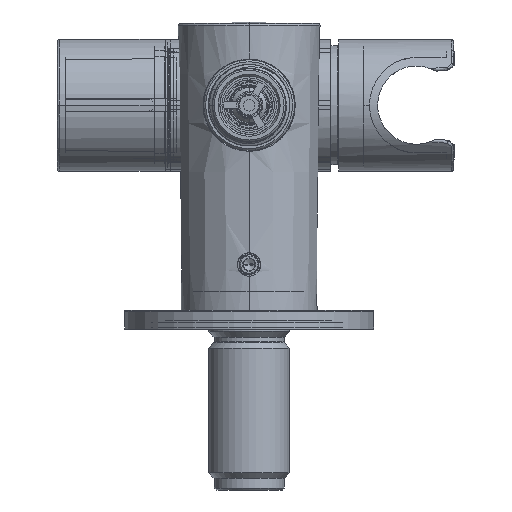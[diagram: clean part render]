
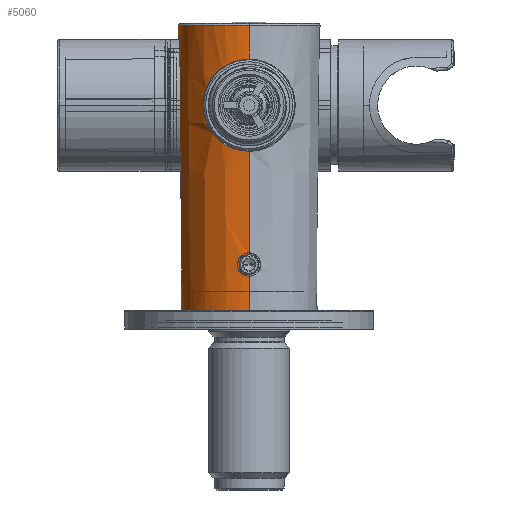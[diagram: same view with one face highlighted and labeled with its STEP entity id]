
A CAD part, front view. The second image highlights one B-rep face of the part: STEP entity #5060.
In plain terms, the highlighted conical face has half-angle 0.569 degrees and reference radius 17.875 mm.
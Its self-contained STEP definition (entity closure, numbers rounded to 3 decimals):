
#3952=DIRECTION('',(0.,1.,-0.01));
#3953=VECTOR('',#3952,26.651);
#3954=CARTESIAN_POINT('',(0.,16.5,-17.664));
#3955=LINE('',#3954,#3953);
#3980=DIRECTION('',(0.,1.,-0.01));
#3981=VECTOR('',#3980,8.651);
#3982=CARTESIAN_POINT('',(0.,66.85,-18.164));
#3983=LINE('',#3982,#3981);
#3984=DIRECTION('',(0.,1.,0.01));
#3985=VECTOR('',#3984,10.001);
#3986=CARTESIAN_POINT('',(0.,65.5,18.151));
#3987=LINE('',#3986,#3985);
#4014=DIRECTION('',(0.,1.,0.01));
#4015=VECTOR('',#4014,44.502);
#4016=CARTESIAN_POINT('',(0.,0.,17.5));
#4017=LINE('',#4016,#4015);
#4023=DIRECTION('',(0.,1.,-0.01));
#4024=VECTOR('',#4023,11.501);
#4025=CARTESIAN_POINT('',(0.,0.,-17.5));
#4026=LINE('',#4025,#4024);
#4035=CARTESIAN_POINT('',(0.,11.5,-17.614));
#4036=CARTESIAN_POINT('',(0.171,11.5,-17.614));
#4037=CARTESIAN_POINT('',(0.514,11.535,
-17.61));
#4038=CARTESIAN_POINT('',(1.005,11.692,-17.59));
#4039=CARTESIAN_POINT('',(1.456,11.946,-17.56));
#4040=CARTESIAN_POINT('',(1.842,12.284,-17.527));
#4041=CARTESIAN_POINT('',(2.155,12.698,-17.495));
#4042=CARTESIAN_POINT('',(2.376,13.167,-17.47));
#4043=CARTESIAN_POINT('',(2.499,13.684,-17.458));
#4044=CARTESIAN_POINT('',(2.51,14.213,-17.462));
#4045=CARTESIAN_POINT('',(2.407,14.742,-17.482));
#4046=CARTESIAN_POINT('',(2.198,15.229,-17.514));
#4047=CARTESIAN_POINT('',(1.889,15.666,-17.555));
#4048=CARTESIAN_POINT('',(1.498,16.024,-17.597));
#4049=CARTESIAN_POINT('',(1.037,16.295,-17.634));
#4050=CARTESIAN_POINT('',(0.531,16.462,
-17.658));
#4051=CARTESIAN_POINT('',(0.177,16.5,-17.664));
#4052=CARTESIAN_POINT('',(0.,16.5,-17.664));
#4054=CARTESIAN_POINT('',(0.,0.,0.));
#4055=DIRECTION('',(0.,1.,0.));
#4056=DIRECTION('',(0.,0.,1.));
#4057=AXIS2_PLACEMENT_3D('',#4054,#4055,#4056);
#4059=CARTESIAN_POINT('',(0.,65.5,18.151));
#4060=CARTESIAN_POINT('',(0.54,65.5,18.151));
#4061=CARTESIAN_POINT('',(1.622,65.417,18.102));
#4062=CARTESIAN_POINT('',(3.23,65.036,17.88));
#4063=CARTESIAN_POINT('',(4.728,64.421,17.534));
#4064=CARTESIAN_POINT('',(6.079,63.608,17.1));
#4065=CARTESIAN_POINT('',(7.249,62.646,16.624));
#4066=CARTESIAN_POINT('',(8.253,61.546,16.132));
#4067=CARTESIAN_POINT('',(9.07,60.354,15.671));
#4068=CARTESIAN_POINT('',(9.7,59.097,15.271));
#4069=CARTESIAN_POINT('',(10.141,57.833,14.964));
#4070=CARTESIAN_POINT('',(10.43,56.466,14.745));
#4071=CARTESIAN_POINT('',(10.535,54.996,14.652));
#4072=CARTESIAN_POINT('',(10.429,53.511,14.711));
#4073=CARTESIAN_POINT('',(10.126,52.116,14.905));
#4074=CARTESIAN_POINT('',(9.69,50.883,15.18));
#4075=CARTESIAN_POINT('',(9.069,49.645,15.548));
#4076=CARTESIAN_POINT('',(8.267,48.472,15.979));
#4077=CARTESIAN_POINT('',(7.276,47.382,16.445));
#4078=CARTESIAN_POINT('',(6.116,46.419,16.905));
#4079=CARTESIAN_POINT('',(4.761,45.595,17.332));
#4080=CARTESIAN_POINT('',(3.249,44.969,17.675));
#4081=CARTESIAN_POINT('',(1.625,44.583,17.894));
#4082=CARTESIAN_POINT('',(0.54,44.5,17.942));
#4083=CARTESIAN_POINT('',(0.,44.5,17.942));
#4085=CARTESIAN_POINT('',(0.,43.15,-17.929));
#4086=CARTESIAN_POINT('',(0.638,43.15,-17.929));
#4087=CARTESIAN_POINT('',(1.9,43.253,-17.861));
#4088=CARTESIAN_POINT('',(3.701,43.693,-17.578));
#4089=CARTESIAN_POINT('',(5.385,44.392,-17.142));
#4090=CARTESIAN_POINT('',(6.948,45.343,-16.577));
#4091=CARTESIAN_POINT('',(8.363,46.531,-15.922));
#4092=CARTESIAN_POINT('',(9.69,48.073,-15.165));
#4093=CARTESIAN_POINT('',(10.73,49.848,-14.458));
#4094=CARTESIAN_POINT('',(11.384,51.555,-13.963));
#4095=CARTESIAN_POINT('',(11.767,53.28,-13.661));
#4096=CARTESIAN_POINT('',(11.89,54.986,-13.575));
#4097=CARTESIAN_POINT('',(11.772,56.693,-13.702));
#4098=CARTESIAN_POINT('',(11.392,58.415,-14.044));
#4099=CARTESIAN_POINT('',(10.754,60.104,-14.568));
#4100=CARTESIAN_POINT('',(9.703,61.911,-15.32));
#4101=CARTESIAN_POINT('',(8.377,63.456,-16.105));
#4102=CARTESIAN_POINT('',(6.944,64.661,-16.787));
#4103=CARTESIAN_POINT('',(5.372,65.615,-17.367));
#4104=CARTESIAN_POINT('',(3.691,66.31,-17.809));
#4105=CARTESIAN_POINT('',(1.896,66.747,-18.096));
#4106=CARTESIAN_POINT('',(0.637,66.85,-18.164));
#4107=CARTESIAN_POINT('',(0.,66.85,-18.164));
#4219=CARTESIAN_POINT('',(0.,75.501,0.));
#4220=DIRECTION('',(0.,1.,0.));
#4221=DIRECTION('',(0.,0.,1.));
#4222=AXIS2_PLACEMENT_3D('',#4219,#4220,#4221);
#4809=CARTESIAN_POINT('',(0.,0.,17.5));
#4810=CARTESIAN_POINT('',(0.,0.,-17.5));
#4811=VERTEX_POINT('',#4809);
#4812=VERTEX_POINT('',#4810);
#4813=VERTEX_POINT('',#4059);
#4814=VERTEX_POINT('',#4083);
#4815=CARTESIAN_POINT('',(0.,75.501,18.25));
#4816=VERTEX_POINT('',#4815);
#4829=CARTESIAN_POINT('',(0.,66.85,-18.164));
#4830=CARTESIAN_POINT('',(0.,75.501,-18.25));
#4831=VERTEX_POINT('',#4829);
#4832=VERTEX_POINT('',#4830);
#4897=VERTEX_POINT('',#4085);
#4940=VERTEX_POINT('',#4035);
#4941=VERTEX_POINT('',#4052);
#5040=CARTESIAN_POINT('',(0.,37.75,0.));
#5041=DIRECTION('',(0.,1.,0.));
#5042=DIRECTION('',(0.,0.,1.));
#5043=AXIS2_PLACEMENT_3D('',#5040,#5041,#5042);
#5044=CONICAL_SURFACE('',#5043,17.875,0.569);
#5045=ORIENTED_EDGE('',*,*,#5031,.F.);
#5046=ORIENTED_EDGE('',*,*,#5006,.F.);
#5047=ORIENTED_EDGE('',*,*,#4973,.F.);
#5048=ORIENTED_EDGE('',*,*,#5003,.T.);
#5050=ORIENTED_EDGE('',*,*,#5049,.F.);
#5051=ORIENTED_EDGE('',*,*,#4999,.T.);
#5053=ORIENTED_EDGE('',*,*,#5052,.T.);
#5054=ORIENTED_EDGE('',*,*,#4995,.F.);
#5056=ORIENTED_EDGE('',*,*,#5055,.F.);
#5057=ORIENTED_EDGE('',*,*,#4991,.F.);
#5058=EDGE_LOOP('',(#5045,#5046,#5047,#5048,#5050,#5051,#5053,#5054,#5056,
#5057));
#5059=FACE_OUTER_BOUND('',#5058,.F.);
#5060=ADVANCED_FACE('',(#5059),#5044,.T.);
#4053=B_SPLINE_CURVE_WITH_KNOTS('',3,(#4035,#4036,#4037,#4038,#4039,#4040,#4041,
#4042,#4043,#4044,#4045,#4046,#4047,#4048,#4049,#4050,#4051,#4052),
.UNSPECIFIED.,.F.,.F.,(4,1,1,1,1,1,1,1,1,1,1,1,1,1,1,4),(0.,0.067,
0.133,0.2,0.267,0.333,0.4,
0.467,0.533,0.6,0.667,0.733,
0.8,0.867,0.933,1.),.UNSPECIFIED.);
#4058=CIRCLE('',#4057,17.5);
#4084=B_SPLINE_CURVE_WITH_KNOTS('',3,(#4059,#4060,#4061,#4062,#4063,#4064,#4065,
#4066,#4067,#4068,#4069,#4070,#4071,#4072,#4073,#4074,#4075,#4076,#4077,#4078,
#4079,#4080,#4081,#4082,#4083),.UNSPECIFIED.,.F.,.F.,(4,1,1,1,1,1,1,1,1,1,1,1,1,
1,1,1,1,1,1,1,1,1,4),(0.,0.045,0.091,
0.136,0.182,0.227,0.273,
0.318,0.364,0.409,0.455,0.5,
0.545,0.591,0.636,0.682,
0.727,0.773,0.818,0.864,
0.909,0.955,1.),.UNSPECIFIED.);
#4108=B_SPLINE_CURVE_WITH_KNOTS('',3,(#4085,#4086,#4087,#4088,#4089,#4090,#4091,
#4092,#4093,#4094,#4095,#4096,#4097,#4098,#4099,#4100,#4101,#4102,#4103,#4104,
#4105,#4106,#4107),.UNSPECIFIED.,.F.,.F.,(4,1,1,1,1,1,1,1,1,1,1,1,1,1,1,1,1,1,1,
1,4),(0.,0.05,0.1,0.15,0.2,0.25,0.3,0.35,0.4,0.45,0.5,
0.55,0.6,0.65,0.7,0.75,0.8,0.85,0.9,0.95,1.),.UNSPECIFIED.);
#4223=CIRCLE('',#4222,18.25);
#4973=EDGE_CURVE('',#4811,#4812,#4058,.T.);
#4991=EDGE_CURVE('',#4941,#4897,#3955,.T.);
#4995=EDGE_CURVE('',#4831,#4832,#3983,.T.);
#4999=EDGE_CURVE('',#4813,#4816,#3987,.T.);
#5003=EDGE_CURVE('',#4811,#4814,#4017,.T.);
#5006=EDGE_CURVE('',#4812,#4940,#4026,.T.);
#5031=EDGE_CURVE('',#4940,#4941,#4053,.T.);
#5049=EDGE_CURVE('',#4813,#4814,#4084,.T.);
#5052=EDGE_CURVE('',#4816,#4832,#4223,.T.);
#5055=EDGE_CURVE('',#4897,#4831,#4108,.T.);
